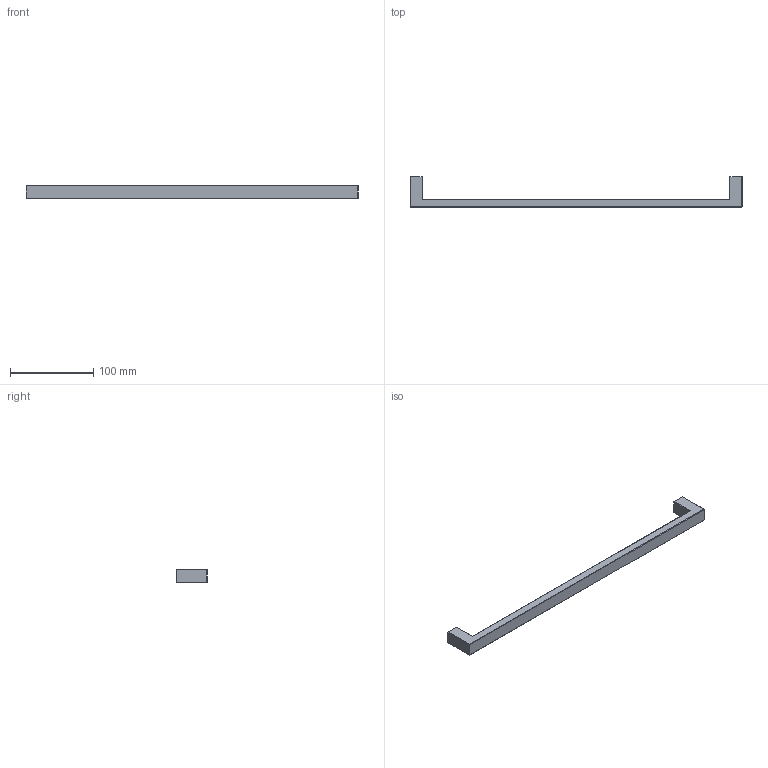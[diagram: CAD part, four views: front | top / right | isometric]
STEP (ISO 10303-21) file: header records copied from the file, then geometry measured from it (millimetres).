
FILE_DESCRIPTION( ( '' ), '1' );
FILE_NAME( 'C:/Documents and Settings/Sachin/Desktop/Sheet 10_1/stp/9113251.stp', '2013-10-22T06:56:44', ( '' ), ( '' ), ' ', ' ', ' ' );
FILE_SCHEMA( ( 'CONFIG_CONTROL_DESIGN' ) );
Length unit declared in the file: millimetre
Products named in the file (1): 1
Bounding box: 399 x 37 x 16 mm (x, y, z)
Volume: 76502.8 mm3; surface area: 24219.2 mm2
Topology: 1 solids, 1 shells, 36 faces, 88 edges, 56 vertices
Faces by surface type: cylinder 20, plane 16
Entity records: 1108 total; most frequent: DIRECTION 198, CARTESIAN_POINT 181, ORIENTED_EDGE 176, EDGE_CURVE 88, AXIS2_PLACEMENT_3D 73, VERTEX_POINT 56, LINE 52, VECTOR 52
